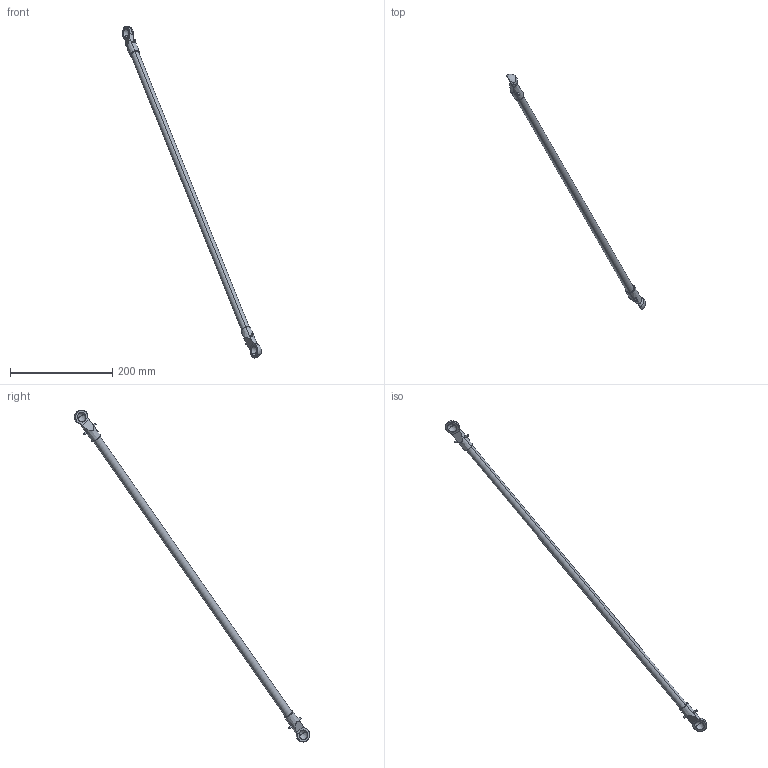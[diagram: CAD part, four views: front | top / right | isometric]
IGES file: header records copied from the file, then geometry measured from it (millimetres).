
Start section: SolidWorks IGES file using analytic representation for surfaces
Global section: file name: C:\Users\sedahar1\OneDrive - ABB\Documents\GPI local\Work Items\642287\IRB360_8-1130-STD-4D\IRB360_8-1130-STD-4D_rev03_LA3_1_CAD.IGS; native system: SolidWorks 2024; preprocessor: SolidWorks 2024; author: SEDAHAR1; date: 251103.101528; units: millimetre
Bounding box: 272.75 x 461.2 x 650.97 mm (x, y, z)
Surface area: 44609 mm2 (no closed solid volume)
Topology: 0 solids, 0 shells, 40 faces, 904 edges, 897 vertices
Faces by surface type: revolution 30, bspline 10
